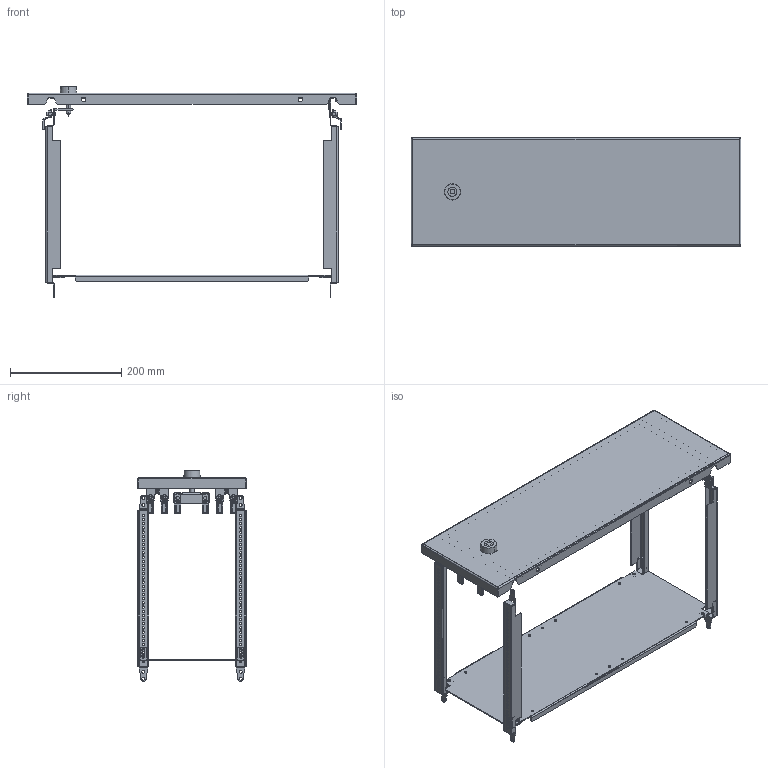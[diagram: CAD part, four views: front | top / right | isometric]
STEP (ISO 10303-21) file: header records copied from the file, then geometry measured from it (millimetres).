
FILE_DESCRIPTION(('CAx-IF Rec.Pracs.---Model Styling and Organization---1.2---2011-12-15','CAx-IF Rec.Pracs.---Geometric and Assembly Validation Properties---4.1---2014-06-16','CAx-IF Rec.Pracs.---PMI Polyline Presentation---2.0---2013-05-24'),'2;1');
FILE_NAME('R5PKEB0620.stp','2021-05-05T13:47:32+03:00',(''),(''),'STEP Interface 4.4 by CT CoreTechnologie','3D_Evolution4.4 by CT CoreTechnologie','');
FILE_SCHEMA(('AUTOMOTIVE_DESIGN { 1 0 10303 214 1 1 1 1 }'));
Length unit declared in the file: millimetre
Products named in the file (20): R5PKEB0620; RB.0586.00.00.0_-02; RB.0348.00.00.0_-00; RB.0329.00.00.0_-00; R5CPMEM_R5CPMEM6200; AC00C485; M6 x 16-DIN 7991 ISR_thread; M6 x 16-DIN 7991 ISR_stright; AC00C745; RB.0116.00.00.2_-00; MS737-1-1; MS737-1-1 stop_fixed; MS737-1-1 Z_ ªàëâ; RB.0572.00.00.1 ÑÁ_-05; AC00C061_AC00C061; AC00C266; Ì6õ12-A5100231_straight; RB.0572.00.01.1_-05; PF 7x14 R5PKEB_0200x0600; RB.0687.00.00.1_-00
Assembly tree (37 placements, depth 4):
  R5PKEB0620
    RB.0586.00.00.0_-02
    RB.0348.00.00.0_-00  x4
    RB.0329.00.00.0_-00  x4
    R5CPMEM_R5CPMEM6200
      AC00C485  x6
      M6 x 16-DIN 7991 ISR_thread  x3
      M6 x 16-DIN 7991 ISR_stright  x3
      AC00C745  x2
      RB.0116.00.00.2_-00  x2
      MS737-1-1
        MS737-1-1 stop_fixed
        MS737-1-1 Z_ ªàëâ
      RB.0572.00.00.1 ÑÁ_-05
        AC00C061_AC00C061
        AC00C266  x2
        Ì6õ12-A5100231_straight
        RB.0572.00.01.1_-05
        PF 7x14 R5PKEB_0200x0600
      RB.0687.00.00.1_-00
Bounding box: 594 x 195 x 379.4 mm (x, y, z)
Surface area: 732080.7 mm2 (no closed solid volume)
Topology: 0 solids, 70 shells, 2038 faces, 5201 edges, 3289 vertices
Faces by surface type: cylinder 963, plane 809, bspline 266
Entity records: 30027 total; most frequent: CARTESIAN_POINT 8202, DIRECTION 4359, ORIENTED_EDGE 4266, EDGE_CURVE 2133, AXIS2_PLACEMENT_3D 1548, VERTEX_POINT 1365, VECTOR 1263, LINE 1263
